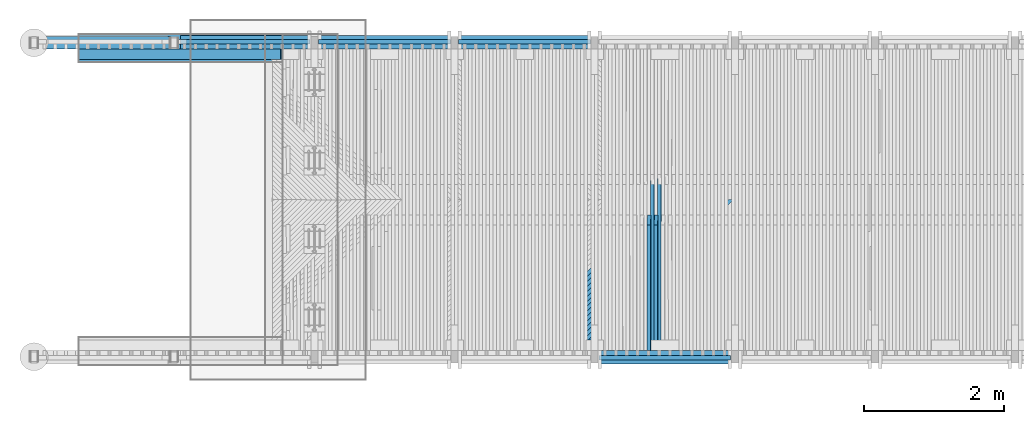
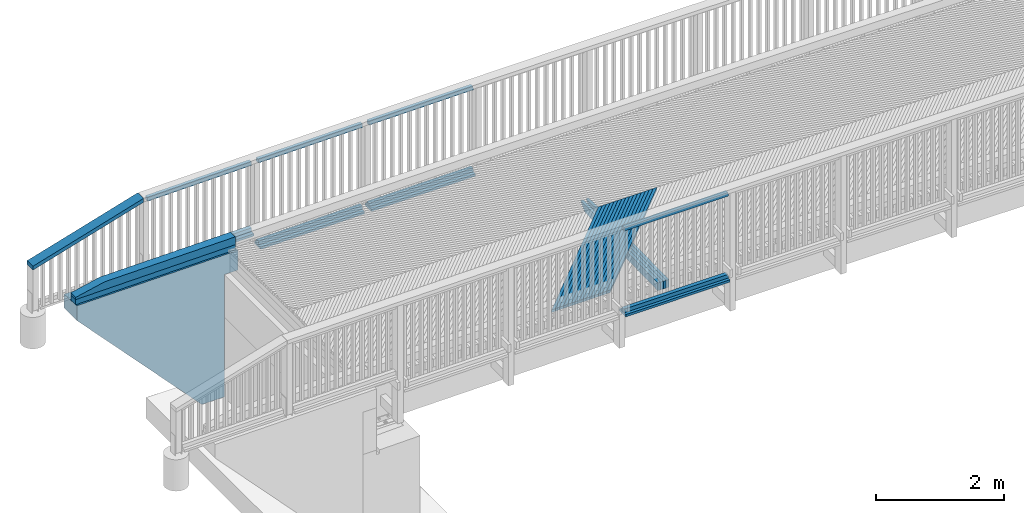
# One storey, part 21 of 52: 35 beams.
"""IFC2X3 building model written with IfcOpenShell, lengths in millimetres."""

import ifcopenshell
import ifcopenshell.guid

model = None  # the IFC model being written
_history = None  # IfcOwnerHistory: only IFC2X3 demands one
_inside = {}  # id of a spatial element -> (the spatial element, [elements in it])
_under = {}  # id of a project, library or spatial element -> (it, [spatial elements below it])
_declared = {}  # id of a project -> (the project, [libraries it declares])
_typed = {}  # id of a type object -> (the type object, [elements of that type])
_made_of = {}  # id of a material, layer set ... -> (it, [elements and type objects made of it])


def new_model(schema):
    """Start an empty IFC model of exactly this schema.

    Asked for "IFC4X3", IfcOpenShell would pick the latest addendum, in which some entities
    have other attributes; the version numbers below select the first issue.
    IFC2X3 requires an IfcOwnerHistory on every rooted entity: one is made here for all.
    """
    global model, _history
    if schema == "IFC4X3":
        model = ifcopenshell.file(schema_version=(4, 3, 0, 0))
    else:
        model = ifcopenshell.file(schema=schema)
    _inside.clear()
    _under.clear()
    _declared.clear()
    _typed.clear()
    _made_of.clear()
    _history = None
    if model.schema == "IFC2X3":
        org = make("IfcOrganization", Name="unknown")
        user = make(
            "IfcPersonAndOrganization",
            ThePerson=make("IfcPerson", FamilyName="unknown"),
            TheOrganization=org,
        )
        app = make(
            "IfcApplication",
            ApplicationDeveloper=org,
            Version="unknown",
            ApplicationFullName="unknown",
            ApplicationIdentifier="unknown",
        )
        _history = make(
            "IfcOwnerHistory",
            OwningUser=user,
            OwningApplication=app,
            ChangeAction="ADDED",
            CreationDate=0,
        )
    return model


def make(cls, **values):
    """One entity of the class cls with the attributes given. An attribute that is None is left unset."""
    return model.create_entity(
        cls, **{name: value for name, value in values.items() if value is not None}
    )


def rooted(cls, **values):
    """An entity with a GlobalId (a new one), such as an element, a storey or a relation."""
    return make(cls, GlobalId=ifcopenshell.guid.new(), OwnerHistory=_history, **values)


def si_unit(unit_type, name, prefix=None):
    """IfcSIUnit, for example si_unit("LENGTHUNIT", "METRE", prefix="MILLI")."""
    return make("IfcSIUnit", UnitType=unit_type, Prefix=prefix, Name=name)


def assignment(units):
    """IfcUnitAssignment: the units of a project."""
    return None if units is None else make("IfcUnitAssignment", Units=units)


def point(xyz):
    """IfcCartesianPoint."""
    return None if xyz is None else make("IfcCartesianPoint", Coordinates=xyz)


def direction(xyz):
    """IfcDirection."""
    return None if xyz is None else make("IfcDirection", DirectionRatios=xyz)


def frame(location, z_axis=None, x_axis=None):
    """IfcAxis2Placement3D, a coordinate frame: its origin and axes. An axis left out is left unset."""
    return make(
        "IfcAxis2Placement3D",
        Location=point(location),
        Axis=direction(z_axis),
        RefDirection=direction(x_axis),
    )


def origin_with_axes():
    """The frame at (0, 0, 0) with the z axis (0, 0, 1) and the x axis (1, 0, 0) written out."""
    return frame((0.0, 0.0, 0.0), z_axis=(0.0, 0.0, 1.0), x_axis=(1.0, 0.0, 0.0))


def place(relative_to, where):
    """IfcLocalPlacement: puts the frame where relative to a parent placement (None: the world)."""
    return make(
        "IfcLocalPlacement", PlacementRelTo=relative_to, RelativePlacement=where
    )


def context(
    kind, dimensions, precision=None, world=None, true_north=None, identifier=None
):
    """IfcGeometricRepresentationContext, for example the 3D "Model" context."""
    return make(
        "IfcGeometricRepresentationContext",
        ContextIdentifier=identifier,
        ContextType=kind,
        CoordinateSpaceDimension=dimensions,
        Precision=precision,
        WorldCoordinateSystem=world,
        TrueNorth=true_north,
    )


def subcontext(parent, identifier, kind, view, scale=None):
    """IfcGeometricRepresentationSubContext, for example "Body" below "Model"."""
    return make(
        "IfcGeometricRepresentationSubContext",
        ContextIdentifier=identifier,
        ContextType=kind,
        ParentContext=parent,
        TargetScale=scale,
        TargetView=view,
    )


def project(units=None, contexts=None):
    """IfcProject with its units and contexts."""
    return rooted(
        "IfcProject",
        Name="project",
        RepresentationContexts=contexts,
        UnitsInContext=assignment(units),
    )


def spatial(cls, under=None, at=None, **own):
    """A site, building, storey or space (cls), placed at a placement, below another one or the project."""
    s = rooted(cls, ObjectPlacement=at, **own)
    if under is not None:
        _under.setdefault(under.id(), (under, []))[1].append(s)
    return s


def faces_of(points, faces, orient=None, outer=None):
    """IfcFace entities. A face is a list of loops; a loop is a list of indices into points, from 0.

    orient and outer hold one flag for each loop. By default every Orientation is true, the
    first loop of a face is its IfcFaceOuterBound and the others are IfcFaceBound.
    """
    made = []
    for i, loops in enumerate(faces):
        bounds = []
        for j, loop in enumerate(loops):
            is_outer = j == 0 if outer is None else outer[i][j]
            bounds.append(
                make(
                    "IfcFaceOuterBound" if is_outer else "IfcFaceBound",
                    Bound=make("IfcPolyLoop", Polygon=[points[k] for k in loop]),
                    Orientation=True if orient is None else orient[i][j],
                )
            )
        made.append(make("IfcFace", Bounds=bounds))
    return made


def faceted_brep(points, faces, orient=None, outer=None, voids=None):
    """IfcFacetedBrep: a solid bounded by flat faces; with voids (closed shells), ...WithVoids."""
    shared = [point(p) for p in points]
    hull = make("IfcClosedShell", CfsFaces=faces_of(shared, faces, orient, outer))
    if voids is None:
        return make("IfcFacetedBrep", Outer=hull)
    return make(
        "IfcFacetedBrepWithVoids",
        Outer=hull,
        Voids=[
            make(cls, CfsFaces=faces_of(shared, fs, o, b)) for cls, fs, o, b in voids
        ],
    )


def shape(context_of_items, identifier, shape_type, items):
    """IfcShapeRepresentation: the items that make up one representation, for example the "Body"."""
    return make(
        "IfcShapeRepresentation",
        ContextOfItems=context_of_items,
        RepresentationIdentifier=identifier,
        RepresentationType=shape_type,
        Items=items,
    )


def material(Name=None, Category=None):
    """IfcMaterial."""
    return make("IfcMaterial", Name=Name, Category=Category)


def made_of(thing, what):
    """Note that an element or type object is made of a material, layer set ...; save() writes the relation."""
    if what is not None:
        _made_of.setdefault(what.id(), (what, []))[1].append(thing)
    return thing


def type_object(cls, material=None, **own):
    """A type object (cls), such as IfcWallType, which elements share."""
    return made_of(rooted(cls, **own), material)


def element(
    cls,
    number,
    at=None,
    inside=None,
    cuts=None,
    type_object=None,
    material=None,
    context=None,
    identifier="Body",
    shape_type=None,
    held_by="IfcProductDefinitionShape",
    body=None,
    shapes=None,
    **own,
):
    """One element of the class cls, such as IfcWall. Its Tag is "e" and its number.

    at: its placement. inside: the storey or other place that contains it. cuts: it is an
    opening in that element (IfcRelVoidsElement). A single representation is given by context,
    identifier, shape_type and body (its items); several are given by shapes. held_by: the class
    of the entity that holds the representations. save() writes the other relations.
    """
    e = rooted(cls, Tag="e%d" % number, ObjectPlacement=at, **own)
    if body is not None:
        shapes = [shape(context, identifier, shape_type, body)]
    if shapes is not None:
        e.Representation = make(held_by, Representations=shapes)
    if inside is not None:
        _inside.setdefault(inside.id(), (inside, []))[1].append(e)
    if cuts is not None:
        rooted(
            "IfcRelVoidsElement", RelatingBuildingElement=cuts, RelatedOpeningElement=e
        )
    if type_object is not None:
        _typed.setdefault(type_object.id(), (type_object, []))[1].append(e)
    return made_of(e, material)


def aggregate(whole, parts):
    """IfcRelAggregates: a whole, such as a stair, and the parts it consists of."""
    return rooted("IfcRelAggregates", RelatingObject=whole, RelatedObjects=parts)


def save(model, path):
    """Write the relations noted so far, then the file.

    IfcRelAggregates (storeys below a building ...), IfcRelContainedInSpatialStructure (elements
    in a storey), IfcRelDefinesByType, IfcRelAssociatesMaterial and IfcRelDeclares: one each for
    every whole, place, type object, material and project.
    """
    for whole, parts in _under.values():
        aggregate(whole, parts)
    for where, things in _inside.values():
        rooted(
            "IfcRelContainedInSpatialStructure",
            RelatedElements=things,
            RelatingStructure=where,
        )
    for kind, things in _typed.values():
        rooted("IfcRelDefinesByType", RelatedObjects=things, RelatingType=kind)
    for what, things in _made_of.values():
        rooted("IfcRelAssociatesMaterial", RelatedObjects=things, RelatingMaterial=what)
    for by, libraries in _declared.values():
        rooted("IfcRelDeclares", RelatingContext=by, RelatedDefinitions=libraries)
    model.write(path)


model = new_model("IFC2X3")

# Units and contexts
model_context = context("Model", 3, precision=1e-05, world=origin_with_axes())
body_context = subcontext(model_context, "Body", "Model", "MODEL_VIEW")
ifc_project = project(units=[si_unit("LENGTHUNIT", "METRE", prefix="MILLI"), si_unit("AREAUNIT", "SQUARE_METRE"), si_unit("VOLUMEUNIT", "CUBIC_METRE"), si_unit("MASSUNIT", "GRAM", prefix="KILO"), si_unit("TIMEUNIT", "SECOND"), si_unit("PLANEANGLEUNIT", "RADIAN"), si_unit("SOLIDANGLEUNIT", "STERADIAN"), si_unit("THERMODYNAMICTEMPERATUREUNIT", "DEGREE_CELSIUS"), si_unit("LUMINOUSINTENSITYUNIT", "LUMEN")], contexts=[model_context])

# Site, building, storey
site_placement = place(None, origin_with_axes())
site = spatial("IfcSite", under=ifc_project, at=site_placement, Name="Undefined", CompositionType="ELEMENT")
building_placement = place(site_placement, origin_with_axes())
building = spatial("IfcBuilding", under=site, at=building_placement, Name="Undefined", CompositionType="ELEMENT")
storey_placement = place(building_placement, origin_with_axes())
storey = spatial("IfcBuildingStorey", under=building, at=storey_placement, Name="Undefined", CompositionType="ELEMENT", Elevation=0.0)

# Beams
ifc_material_1 = material(Name="TIMBER/Timber_Undefined")
beam_type_1 = type_object("IfcBeamType", Name="150*100", PredefinedType="NOTDEFINED")
beam_1_placement = place(storey_placement, frame((-3364.03058800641, 4439.99999999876, 3118.67572907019), z_axis=(0.0, -1.0, 0.0), x_axis=(0.999904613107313, 0.0, 0.0138117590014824)))
element("IfcBeam", 1, at=beam_1_placement, inside=storey, type_object=beam_type_1, material=ifc_material_1, Name="TÖRMÄYSJOHDE", ObjectType="150*100", context=body_context, shape_type="Brep", body=[
    faceted_brep([(-3.63797880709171e-12, 50.0, -75.0), (-3.63797880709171e-12, 50.0, 75.0), (2885.27521749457, 50.0, 75.0), (2885.27521749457, 50.0, -75.0), (0.0, -49.9999999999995, 75.0), (2885.27521749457, -49.9999999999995, 75.0), (0.0, -49.9999999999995, -75.0), (2885.27521749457, -49.9999999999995, -75.0)], [[[0, 1, 2, 3]], [[1, 4, 5, 2]], [[4, 6, 7, 5]], [[6, 0, 3, 7]], [[5, 7, 3, 2]], [[6, 4, 1, 0]]]),
])
beam_type_2 = type_object("IfcBeamType", Name="150*150", PredefinedType="NOTDEFINED")
beam_2_placement = place(storey_placement, frame((-3366.03588197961, 4439.99999999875, 3243.66334439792), z_axis=(0.0, -1.0, 0.0), x_axis=(0.999904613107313, 0.0, 0.0138117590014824)))
element("IfcBeam", 2, at=beam_2_placement, inside=storey, type_object=beam_type_2, material=ifc_material_1, Name="TÖRMÄYSJOHDE", ObjectType="150*150", context=body_context, shape_type="Brep", body=[
    faceted_brep([(0.0, -75.0000000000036, 75.0000000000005), (0.0, -75.0, -74.9999999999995), (2885.27521749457, -74.9999999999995, -75.0), (2885.27521749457, -74.9999999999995, 75.0), (2885.27521749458, 75.0, -75.0), (2885.27521749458, 75.0, 75.0), (529.511118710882, 75.0, -75.0), (529.511118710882, 75.0, 75.0), (4.54747350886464e-13, -33.1222400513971, 75.0), (4.54747350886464e-13, -33.1222400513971, -75.0)], [[[0, 1, 2, 3]], [[3, 2, 4, 5]], [[5, 4, 6, 7]], [[0, 3, 5, 7, 8]], [[1, 0, 8, 9]], [[4, 2, 1, 9, 6]], [[8, 7, 6, 9]]]),
])
ifc_material_2 = material(Name="CONCRETE/Concrete_Undefined")
beam_type_3 = type_object("IfcBeamType", Name="2800*400", PredefinedType="NOTDEFINED")
beam_3_placement = place(storey_placement, frame((-430.340033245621, 4530.0, 1712.66804762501), z_axis=(-0.0140428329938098, 0.0, 0.999901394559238), x_axis=(-0.999901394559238, 0.0, -0.0140428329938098)))
element("IfcBeam", 3, at=beam_3_placement, inside=storey, type_object=beam_type_3, material=ifc_material_2, Name="SIIPIMUURI", ObjectType="2800*400", context=body_context, shape_type="Brep", body=[
    faceted_brep([(5.63100911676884e-07, 200.0, 1400.0), (0.280884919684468, -200.000000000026, 1380.0), (2915.56834818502, -200.0, 1380.0), (2915.28746382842, 200.0, 1400.0), (270.457242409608, 199.999999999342, -54.8754727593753), (270.457242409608, -200.0, -54.8754727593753), (255.29098277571, -200.0, 1025.01803336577), (255.29098277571, 199.999999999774, 1025.01803336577), (288.066954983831, 200.0, -1308.75182153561), (288.066954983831, -200.0, -1308.75182153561), (697.173583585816, 200.0, -1303.00623892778), (697.173583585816, -200.0, -1303.00623892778), (2919.22031514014, 200.0, 1119.96651154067), (2919.22031514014, -200.0, 1119.96651154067), (5.31563413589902, -200.0, 1021.50732511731), (5.31563413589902, 199.999999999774, 1021.50732511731)], [[[0, 1, 2, 3]], [[4, 5, 6, 7]], [[8, 9, 5, 4]], [[10, 11, 9, 8]], [[12, 13, 11, 10]], [[13, 12, 3, 2]], [[14, 6, 5, 9, 11, 13, 2, 1]], [[7, 6, 14, 15]], [[3, 12, 10, 8, 4, 7, 15, 0]], [[15, 14, 1, 0]]]),
])
beam_type_4 = type_object("IfcBeamType", Name="70*70", PredefinedType="NOTDEFINED")
for number, where, z_axis, x_axis, name in (
    (4, (2060.3049307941, 4619.99000024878, 2938.55031617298), (0.0, 1.0, 0.0), (0.999961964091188, 0.0, 0.00872183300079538), "BEAM"),
    (5, (2060.3049307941, 4619.99000024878, 4498.55031617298), (0.0, 1.0, 0.0), (0.999961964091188, 0.0, 0.00872183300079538), "BEAM"),
):
    element("IfcBeam", number, at=place(storey_placement, frame(where, z_axis=z_axis, x_axis=x_axis)), inside=storey, type_object=beam_type_4, material=ifc_material_1, Name=name, ObjectType="70*70", context=body_context, shape_type="Brep", body=[
        faceted_brep([(-3.63797880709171e-12, 35.0000000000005, -35.0), (-3.63797880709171e-12, 35.0000000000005, 35.0), (1880.07227097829, 34.9999999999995, 35.0), (1880.07227097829, 34.9999999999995, -35.0), (-3.63797880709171e-12, -34.9999999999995, 35.0), (1880.07227097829, -35.0000000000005, 35.0), (-3.63797880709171e-12, -34.9999999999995, -35.0), (1880.07227097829, -35.0000000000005, -35.0)], [[[0, 1, 2, 3]], [[1, 4, 5, 2]], [[4, 6, 7, 5]], [[6, 0, 3, 7]], [[5, 7, 3, 2]], [[6, 4, 1, 0]]]),
    ])
for number, where, z_axis, x_axis, name in (
    (6, (60.4266460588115, 4619.99005554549, 2915.38471475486), (0.0, 1.0, 0.0), (0.999925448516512, 0.0, 0.0122105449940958), "BEAM"),
    (7, (60.4266460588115, 4619.99005554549, 4475.38471475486), (0.0, 1.0, 0.0), (0.999925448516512, 0.0, 0.0122105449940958), "BEAM"),
):
    element("IfcBeam", number, at=place(storey_placement, frame(where, z_axis=z_axis, x_axis=x_axis)), inside=storey, type_object=beam_type_4, material=ifc_material_1, Name=name, ObjectType="70*70", context=body_context, shape_type="Brep", body=[
        faceted_brep([(-3.63797880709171e-12, 35.0000000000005, -35.0), (-3.63797880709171e-12, 35.0000000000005, 35.0), (1880.14172547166, 35.0, 35.0), (1880.14172547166, 35.0, -35.0), (-3.63797880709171e-12, -34.9999999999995, 35.0), (1880.14172547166, -35.0, 35.0), (-3.63797880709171e-12, -34.9999999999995, -35.0), (1880.14172547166, -35.0, -35.0)], [[[0, 1, 2, 3]], [[1, 4, 5, 2]], [[4, 6, 7, 5]], [[6, 0, 3, 7]], [[5, 7, 3, 2]], [[6, 4, 1, 0]]]),
    ])
beam_4_placement = place(storey_placement, frame((-1909.4703719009, 4619.99002995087, 3186.87116342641), z_axis=(0.0, 1.0, 0.0), x_axis=(0.999883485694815, 0.0, 0.0152648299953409)))
element("IfcBeam", 8, at=beam_4_placement, inside=storey, type_object=beam_type_4, material=ifc_material_1, Name="BEAM", ObjectType="70*70", context=body_context, shape_type="Brep", body=[
    faceted_brep([(-3.63797880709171e-12, 35.0000000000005, -35.0), (-3.63797880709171e-12, 35.0000000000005, 35.0), (1850.22135781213, 34.9999999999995, 35.0), (1850.22135781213, 34.9999999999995, -35.0), (-3.63797880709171e-12, -34.9999999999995, 35.0), (1850.22135781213, -35.0, 35.0), (-3.63797880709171e-12, -34.9999999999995, -35.0), (1850.22135781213, -35.0, -35.0)], [[[0, 1, 2, 3]], [[1, 4, 5, 2]], [[4, 6, 7, 5]], [[6, 0, 3, 7]], [[5, 7, 3, 2]], [[6, 4, 1, 0]]]),
])
beam_5_placement = place(storey_placement, frame((-1939.46687647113, 4619.99002995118, 4446.41321852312), z_axis=(0.0, 1.0, 0.0), x_axis=(0.999883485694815, 0.0, 0.0152648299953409)))
element("IfcBeam", 9, at=beam_5_placement, inside=storey, type_object=beam_type_4, material=ifc_material_1, Name="BEAM", ObjectType="70*70", context=body_context, shape_type="Brep", body=[
    faceted_brep([(-3.63797880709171e-12, 35.0000000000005, -35.0), (-3.63797880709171e-12, 35.0000000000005, 35.0), (1880.22135781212, 35.0000000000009, 35.0), (1880.22135781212, 35.0000000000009, -35.0), (-3.63797880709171e-12, -34.9999999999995, 35.0), (1880.22135781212, -35.0, 35.0), (-3.63797880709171e-12, -34.9999999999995, -35.0), (1880.22135781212, -35.0, -35.0)], [[[0, 1, 2, 3]], [[1, 4, 5, 2]], [[4, 6, 7, 5]], [[6, 0, 3, 7]], [[5, 7, 3, 2]], [[6, 4, 1, 0]]]),
])
for number, where, z_axis, x_axis, name in (
    (10, (4060.18309001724, 110.009931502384, 2952.37669081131), (0.0, -1.0, 0.0), (0.999986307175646, 0.0, 0.00523311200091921), "BEAM"),
    (11, (4060.18309001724, 110.009931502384, 4512.3766908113), (0.0, -1.0, 0.0), (0.999986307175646, 0.0, 0.00523311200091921), "BEAM"),
):
    element("IfcBeam", number, at=place(storey_placement, frame(where, z_axis=z_axis, x_axis=x_axis)), inside=storey, type_object=beam_type_4, material=ifc_material_1, Name=name, ObjectType="70*70", context=body_context, shape_type="Brep", body=[
        faceted_brep([(-3.63797880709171e-12, 35.0000000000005, -35.0), (-3.63797880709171e-12, 35.0000000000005, 35.0), (1880.02601672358, 34.9999999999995, 35.0), (1880.02601672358, 34.9999999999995, -35.0), (-3.63797880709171e-12, -34.9999999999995, 35.0), (1880.02601672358, -35.0000000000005, 35.0), (-3.63797880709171e-12, -34.9999999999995, -35.0), (1880.02601672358, -35.0000000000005, -35.0)], [[[0, 1, 2, 3]], [[1, 4, 5, 2]], [[4, 6, 7, 5]], [[6, 0, 3, 7]], [[5, 7, 3, 2]], [[6, 4, 1, 0]]]),
    ])
beam_type_5 = type_object("IfcBeamType", Name="180*70", PredefinedType="NOTDEFINED")
beam_6_placement = place(storey_placement, frame((-2039.93420243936, 4605.00996402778, 4517.05500293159), z_axis=(0.0, -1.0, 0.0), x_axis=(-0.958243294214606, 0.0, -0.285954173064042)))
element("IfcBeam", 12, at=beam_6_placement, inside=storey, type_object=beam_type_5, material=ifc_material_1, Name="YLÄJOHDE", ObjectType="180*70", context=body_context, shape_type="Brep", body=[
    faceted_brep([(41.6879268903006, 35.0699417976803, -90.0), (41.8028913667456, -34.9299637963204, -90.0), (0.0598773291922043, -34.9999487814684, -90.0), (20.9594530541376, 35.0351891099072, -90.0), (41.8028913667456, -34.9299637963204, 90.0), (41.6879268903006, 35.0699417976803, 90.0), (20.9594530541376, 35.0351891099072, 90.0), (0.0598773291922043, -34.9999487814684, 90.0), (83.4357358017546, 35.1370779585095, 90.0), (83.4357358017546, 35.1370779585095, -90.0), (83.5459100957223, -34.8628353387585, -90.0), (83.5459100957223, -34.8628353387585, 90.0), (125.288933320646, -34.7985634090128, 90.0), (125.183549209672, 35.2013572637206, 90.0), (125.183549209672, 35.2013572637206, -90.0), (125.288933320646, -34.7985634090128, -90.0), (167.031960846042, -34.7371480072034, -90.0), (167.031960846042, -34.7371480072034, 90.0), (166.931366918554, 35.2627797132, 90.0), (166.931366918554, 35.2627797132, -90.0), (208.679188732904, 35.3213453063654, -90.0), (208.774992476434, -34.6785891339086, -90.0), (208.774992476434, -34.6785891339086, 90.0), (208.679188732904, 35.3213453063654, 90.0), (250.427014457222, 35.3770540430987, 90.0), (250.427014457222, 35.3770540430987, -90.0), (250.518028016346, -34.6228867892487, -90.0), (250.518028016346, -34.6228867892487, 90.0), (292.261067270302, -34.57004097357, 90.0), (292.17484389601, 35.4299059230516, 90.0), (292.17484389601, 35.4299059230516, -90.0), (292.261067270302, -34.57004097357, -90.0), (334.004110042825, -34.5200516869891, -90.0), (334.004110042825, -34.5200516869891, 90.0), (333.92267685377, 35.4799009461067, 90.0), (333.92267685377, 35.4799009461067, -90.0), (375.670513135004, 35.527039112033, -90.0), (375.747156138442, -34.4729189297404, -90.0), (375.747156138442, -34.4729189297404, 90.0), (375.670513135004, 35.527039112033, 90.0), (417.418352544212, 35.5713204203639, 90.0), (417.418352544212, 35.5713204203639, -90.0), (417.490205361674, -34.428642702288, -90.0), (417.490205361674, -34.428642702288, 90.0), (459.233257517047, -34.3872230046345, 90.0), (459.166194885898, 35.6127448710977, 90.0), (459.166194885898, 35.6127448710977, -90.0), (459.233257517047, -34.3872230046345, -90.0), (500.976312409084, -34.3486598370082, -90.0), (500.976312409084, -34.3486598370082, 90.0), (500.914039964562, 35.651312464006, 90.0), (500.914039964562, 35.651312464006, -90.0), (542.661887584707, 35.6870231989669, -90.0), (542.71936984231, -34.3129531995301, -90.0), (542.71936984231, -34.3129531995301, 90.0), (542.661887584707, 35.6870231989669, 90.0), (584.409737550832, 35.7198770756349, 90.0), (584.409737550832, 35.7198770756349, -90.0), (584.462429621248, -34.2801030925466, -90.0), (584.462429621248, -34.2801030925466, 90.0), (626.205491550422, -34.2501095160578, 90.0), (626.157589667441, 35.7498740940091, 90.0), (626.157589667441, 35.7498740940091, -90.0), (626.205491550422, -34.2501095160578, -90.0), (667.948555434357, -34.222972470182, -90.0), (667.948555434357, -34.222972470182, 90.0), (667.905443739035, 35.777014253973, 90.0), (667.905443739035, 35.777014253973, -90.0), (709.653299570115, 35.801297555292, -90.0), (709.691621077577, -34.19869195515, -90.0), (709.691621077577, -34.19869195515, 90.0), (709.653299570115, 35.801297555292, 90.0), (751.401156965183, 35.8227239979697, 90.0), (751.401156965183, 35.8227239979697, -90.0), (751.434688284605, -34.1772679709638, -90.0), (751.434688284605, -34.1772679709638, 90.0), (793.177756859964, -34.1587005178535, 90.0), (793.14901572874, 35.8412935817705, 90.0), (793.14901572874, 35.8412935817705, -90.0), (793.177756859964, -34.1587005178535, -90.0), (834.920826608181, -34.1429895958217, -90.0), (834.920826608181, -34.1429895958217, 90.0), (834.896875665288, 35.8570063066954, 90.0), (834.896875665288, 35.8570063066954, -90.0), (876.644736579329, 35.8698621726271, -90.0), (876.663897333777, -34.1301352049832, -90.0), (876.663897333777, -34.1301352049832, 90.0), (876.644736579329, 35.8698621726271, 90.0), (918.392598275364, 35.8798611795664, 90.0), (918.392598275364, 35.8798611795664, -90.0), (918.406968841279, -34.1201373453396, -90.0), (918.406968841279, -34.1201373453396, 90.0), (960.150040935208, -34.1129960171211, 90.0), (960.140460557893, 35.8870033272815, 90.0), (960.140460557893, 35.8870033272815, -90.0), (960.150040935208, -34.1129960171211, -90.0), (1001.89311342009, -34.1087112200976, -90.0), (1001.89311342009, -34.1087112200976, 90.0), (1001.88832323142, 35.8912886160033, 90.0), (1001.88832323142, 35.8912886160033, -90.0), (1043.63618610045, 35.8927170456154, -90.0), (1043.63618610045, -34.1072829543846, -90.0), (1043.63618610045, -34.1072829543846, 90.0), (1043.63618610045, 35.8927170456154, 90.0), (1085.38404896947, 35.8912886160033, 90.0), (1085.38404896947, 35.8912886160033, -90.0), (1085.3792587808, -34.1087112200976, -90.0), (1085.3792587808, -34.1087112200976, 90.0), (1127.12233126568, -34.1129960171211, 90.0), (1127.131911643, 35.8870033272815, 90.0), (1127.131911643, 35.8870033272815, -90.0), (1127.12233126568, -34.1129960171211, -90.0), (1168.86540335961, -34.1201373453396, -90.0), (1168.86540335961, -34.1201373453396, 90.0), (1168.87977392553, 35.8798611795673, 90.0), (1168.87977392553, 35.8798611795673, -90.0), (1210.62763562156, 35.8698621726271, -90.0), (1210.60847486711, -34.1301352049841, -90.0), (1210.60847486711, -34.1301352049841, 90.0), (1210.62763562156, 35.8698621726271, 90.0), (1252.3754965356, 35.8570063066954, 90.0), (1252.3754965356, 35.8570063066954, -90.0), (1252.35154559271, -34.1429895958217, -90.0), (1252.35154559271, -34.1429895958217, 90.0), (1294.09461534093, -34.1587005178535, 90.0), (1294.12335647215, 35.8412935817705, 90.0), (1294.12335647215, 35.8412935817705, -90.0), (1294.09461534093, -34.1587005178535, -90.0), (1335.83768391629, -34.1772679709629, -90.0), (1335.83768391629, -34.1772679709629, 90.0), (1335.87121523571, 35.8227239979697, 90.0), (1335.87121523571, 35.8227239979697, -90.0), (1377.61907263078, 35.8012975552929, -90.0), (1377.58075112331, -34.1986919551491, -90.0), (1377.58075112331, -34.1986919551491, 90.0), (1377.61907263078, 35.8012975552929, 90.0), (1419.36692846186, 35.777014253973, 90.0), (1419.36692846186, 35.777014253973, -90.0), (1419.32381676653, -34.222972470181, -90.0), (1419.32381676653, -34.222972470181, 90.0), (1461.06688065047, -34.2501095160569, 90.0), (1461.11478253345, 35.7498740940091, 90.0), (1461.11478253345, 35.7498740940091, -90.0), (1461.06688065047, -34.2501095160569, -90.0), (1502.80994257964, -34.2801030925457, -90.0), (1502.80994257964, -34.2801030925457, 90.0), (1502.86263465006, 35.7198770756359, 90.0), (1502.86263465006, 35.7198770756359, -90.0), (1544.61048461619, 35.6870231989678, -90.0), (1544.55300235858, -34.3129531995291, -90.0), (1544.55300235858, -34.3129531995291, 90.0), (1544.61048461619, 35.6870231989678, 90.0), (1586.35833223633, 35.6513124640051, 90.0), (1586.35833223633, 35.6513124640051, -90.0), (1586.29605979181, -34.3486598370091, -90.0), (1586.29605979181, -34.3486598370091, 90.0), (1628.03911468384, -34.3872230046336, 90.0), (1628.10617731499, 35.6127448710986, 90.0), (1628.10617731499, 35.6127448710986, -90.0), (1628.03911468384, -34.3872230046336, -90.0), (1669.78216683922, -34.428642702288, -90.0), (1669.78216683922, -34.428642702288, 90.0), (1669.85401965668, 35.571320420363, 90.0), (1669.85401965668, 35.571320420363, -90.0), (1711.60185906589, 35.527039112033, -90.0), (1711.52521606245, -34.4729189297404, -90.0), (1711.52521606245, -34.4729189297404, 90.0), (1711.60185906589, 35.527039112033, 90.0), (1753.34969534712, 35.4799009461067, 90.0), (1753.34969534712, 35.4799009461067, -90.0), (1753.26826215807, -34.5200516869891, -90.0), (1753.26826215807, -34.5200516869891, 90.0), (1795.01130493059, -34.5700409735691, 90.0), (1795.09752830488, 35.4299059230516, 90.0), (1795.09752830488, 35.4299059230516, -90.0), (1795.01130493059, -34.5700409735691, -90.0), (1836.75434418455, -34.6228867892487, -90.0), (1836.75434418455, -34.6228867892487, 90.0), (1836.84535774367, 35.3770540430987, 90.0), (1836.84535774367, 35.3770540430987, -90.0), (1878.59318346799, 35.3213453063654, -90.0), (1878.49737972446, -34.6785891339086, -90.0), (1878.49737972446, -34.6785891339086, 90.0), (1878.59318346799, 35.3213453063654, 90.0), (1920.34100528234, 35.2627797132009, 90.0), (1920.34100528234, 35.2627797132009, -90.0), (1920.24041135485, -34.7371480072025, -90.0), (1920.24041135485, -34.7371480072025, 90.0), (1961.98343888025, -34.7985634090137, 90.0), (1962.08882299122, 35.2013572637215, 90.0), (1962.08882299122, 35.2013572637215, -90.0), (1961.98343888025, -34.7985634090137, -90.0), (2003.72646210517, -34.8628353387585, -90.0), (2003.72646210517, -34.8628353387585, 90.0), (2003.83663639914, 35.1370779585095, 90.0), (2003.83663639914, 35.1370779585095, -90.0), (2045.58444531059, 35.0699417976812, -90.0), (2045.46948083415, -34.9299637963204, -90.0), (2045.46948083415, -34.9299637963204, 90.0), (2045.58444531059, 35.0699417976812, 90.0), (2087.33224953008, 34.9999487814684, 90.0), (2087.33224953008, 34.9999487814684, -90.0), (2087.2124948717, -34.9999487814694, -90.0), (2087.2124948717, -34.9999487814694, 90.0), (2108.09074494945, 34.9637252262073, 90.0), (2108.09074494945, 34.9637252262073, -90.0)], [[[0, 1, 2, 3]], [[4, 5, 6, 7]], [[1, 4, 7, 2]], [[6, 3, 2, 7]], [[5, 0, 3, 6]], [[0, 5, 8, 9]], [[1, 0, 9, 10]], [[4, 1, 10, 11]], [[5, 4, 11, 8]], [[8, 11, 12, 13]], [[9, 8, 13, 14]], [[10, 9, 14, 15]], [[11, 10, 15, 12]], [[12, 15, 16, 17]], [[13, 12, 17, 18]], [[14, 13, 18, 19]], [[15, 14, 19, 16]], [[16, 19, 20, 21]], [[17, 16, 21, 22]], [[18, 17, 22, 23]], [[19, 18, 23, 20]], [[20, 23, 24, 25]], [[21, 20, 25, 26]], [[22, 21, 26, 27]], [[23, 22, 27, 24]], [[24, 27, 28, 29]], [[25, 24, 29, 30]], [[26, 25, 30, 31]], [[27, 26, 31, 28]], [[28, 31, 32, 33]], [[29, 28, 33, 34]], [[30, 29, 34, 35]], [[31, 30, 35, 32]], [[32, 35, 36, 37]], [[33, 32, 37, 38]], [[34, 33, 38, 39]], [[35, 34, 39, 36]], [[36, 39, 40, 41]], [[37, 36, 41, 42]], [[38, 37, 42, 43]], [[39, 38, 43, 40]], [[40, 43, 44, 45]], [[41, 40, 45, 46]], [[42, 41, 46, 47]], [[43, 42, 47, 44]], [[44, 47, 48, 49]], [[45, 44, 49, 50]], [[46, 45, 50, 51]], [[47, 46, 51, 48]], [[48, 51, 52, 53]], [[49, 48, 53, 54]], [[50, 49, 54, 55]], [[51, 50, 55, 52]], [[52, 55, 56, 57]], [[53, 52, 57, 58]], [[54, 53, 58, 59]], [[55, 54, 59, 56]], [[56, 59, 60, 61]], [[57, 56, 61, 62]], [[58, 57, 62, 63]], [[59, 58, 63, 60]], [[60, 63, 64, 65]], [[61, 60, 65, 66]], [[62, 61, 66, 67]], [[63, 62, 67, 64]], [[64, 67, 68, 69]], [[65, 64, 69, 70]], [[66, 65, 70, 71]], [[67, 66, 71, 68]], [[68, 71, 72, 73]], [[69, 68, 73, 74]], [[70, 69, 74, 75]], [[71, 70, 75, 72]], [[72, 75, 76, 77]], [[73, 72, 77, 78]], [[74, 73, 78, 79]], [[75, 74, 79, 76]], [[76, 79, 80, 81]], [[77, 76, 81, 82]], [[78, 77, 82, 83]], [[79, 78, 83, 80]], [[80, 83, 84, 85]], [[81, 80, 85, 86]], [[82, 81, 86, 87]], [[83, 82, 87, 84]], [[84, 87, 88, 89]], [[85, 84, 89, 90]], [[86, 85, 90, 91]], [[87, 86, 91, 88]], [[88, 91, 92, 93]], [[89, 88, 93, 94]], [[90, 89, 94, 95]], [[91, 90, 95, 92]], [[92, 95, 96, 97]], [[93, 92, 97, 98]], [[94, 93, 98, 99]], [[95, 94, 99, 96]], [[96, 99, 100, 101]], [[97, 96, 101, 102]], [[98, 97, 102, 103]], [[99, 98, 103, 100]], [[100, 103, 104, 105]], [[101, 100, 105, 106]], [[102, 101, 106, 107]], [[103, 102, 107, 104]], [[104, 107, 108, 109]], [[105, 104, 109, 110]], [[106, 105, 110, 111]], [[107, 106, 111, 108]], [[108, 111, 112, 113]], [[109, 108, 113, 114]], [[110, 109, 114, 115]], [[111, 110, 115, 112]], [[112, 115, 116, 117]], [[113, 112, 117, 118]], [[114, 113, 118, 119]], [[115, 114, 119, 116]], [[116, 119, 120, 121]], [[117, 116, 121, 122]], [[118, 117, 122, 123]], [[119, 118, 123, 120]], [[120, 123, 124, 125]], [[121, 120, 125, 126]], [[122, 121, 126, 127]], [[123, 122, 127, 124]], [[124, 127, 128, 129]], [[125, 124, 129, 130]], [[126, 125, 130, 131]], [[127, 126, 131, 128]], [[128, 131, 132, 133]], [[129, 128, 133, 134]], [[130, 129, 134, 135]], [[131, 130, 135, 132]], [[132, 135, 136, 137]], [[133, 132, 137, 138]], [[134, 133, 138, 139]], [[135, 134, 139, 136]], [[136, 139, 140, 141]], [[137, 136, 141, 142]], [[138, 137, 142, 143]], [[139, 138, 143, 140]], [[140, 143, 144, 145]], [[141, 140, 145, 146]], [[142, 141, 146, 147]], [[143, 142, 147, 144]], [[144, 147, 148, 149]], [[145, 144, 149, 150]], [[146, 145, 150, 151]], [[147, 146, 151, 148]], [[148, 151, 152, 153]], [[149, 148, 153, 154]], [[150, 149, 154, 155]], [[151, 150, 155, 152]], [[152, 155, 156, 157]], [[153, 152, 157, 158]], [[154, 153, 158, 159]], [[155, 154, 159, 156]], [[156, 159, 160, 161]], [[157, 156, 161, 162]], [[158, 157, 162, 163]], [[159, 158, 163, 160]], [[160, 163, 164, 165]], [[161, 160, 165, 166]], [[162, 161, 166, 167]], [[163, 162, 167, 164]], [[164, 167, 168, 169]], [[165, 164, 169, 170]], [[166, 165, 170, 171]], [[167, 166, 171, 168]], [[168, 171, 172, 173]], [[169, 168, 173, 174]], [[170, 169, 174, 175]], [[171, 170, 175, 172]], [[172, 175, 176, 177]], [[173, 172, 177, 178]], [[174, 173, 178, 179]], [[175, 174, 179, 176]], [[176, 179, 180, 181]], [[177, 176, 181, 182]], [[178, 177, 182, 183]], [[179, 178, 183, 180]], [[180, 183, 184, 185]], [[181, 180, 185, 186]], [[182, 181, 186, 187]], [[183, 182, 187, 184]], [[184, 187, 188, 189]], [[185, 184, 189, 190]], [[186, 185, 190, 191]], [[187, 186, 191, 188]], [[188, 191, 192, 193]], [[189, 188, 193, 194]], [[190, 189, 194, 195]], [[191, 190, 195, 192]], [[192, 195, 196, 197]], [[193, 192, 197, 198]], [[194, 193, 198, 199]], [[195, 194, 199, 196]], [[196, 199, 200, 201]], [[197, 196, 201, 202]], [[198, 197, 202, 203]], [[199, 198, 203, 200]], [[200, 203, 204]], [[201, 200, 204, 205]], [[201, 205, 202]], [[204, 203, 202, 205]]]),
])
beam_type_6 = type_object("IfcBeamType", Name="50*50", PredefinedType="NOTDEFINED")
for number, where, z_axis, x_axis, name in (
    (13, (5943.35931839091, 2364.50010032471, 3232.6095926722), (0.70715430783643, -0.706981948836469, -0.0104550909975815), (-0.707040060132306, -0.706948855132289, -0.0178232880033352), "BEAM"),
    (14, (5872.63551183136, 2364.50010032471, 3232.36386467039), (0.707155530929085, -0.706981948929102, -0.0103720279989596), (-0.707037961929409, -0.706948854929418, -0.0179063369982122), "BEAM"),
    (15, (5801.91173462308, 2364.50010032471, 3232.10982940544), (0.707156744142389, -0.706981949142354, -0.0102889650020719), (-0.707035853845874, -0.706948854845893, -0.0179893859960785), "BEAM"),
    (16, (5731.18798774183, 2364.50010032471, 3231.84748688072), (0.707157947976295, -0.706981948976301, -0.010205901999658), (-0.707033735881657, -0.706948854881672, -0.0180724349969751), "BEAM"),
    (17, (5660.46427216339, 2364.50010032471, 3231.57683709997), (0.707159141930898, -0.706981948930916, -0.0101228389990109), (-0.707031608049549, -0.706948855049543, -0.0181554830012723), "BEAM"),
    (18, (5589.74058886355, 2364.50010032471, 3231.29788006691), (0.707160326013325, -0.706981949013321, -0.0100397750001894), (-0.707029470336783, -0.706948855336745, -0.0182385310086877), "BEAM"),
    (19, (5519.01693881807, 2364.50010032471, 3231.01061578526), (0.707161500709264, -0.706981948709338, -0.00995671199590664), (-0.707027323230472, -0.706948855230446, -0.0183215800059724), "BEAM"),
    (20, (5448.29332300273, 2364.50010032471, 3230.71504425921), (0.707162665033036, -0.706981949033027, -0.00987364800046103), (-0.707025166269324, -0.706948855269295, -0.0184046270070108), "BEAM"),
    (21, (5377.5697423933, 2364.50010032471, 3230.41116549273), (0.707163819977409, -0.706981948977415, -0.00979058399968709), (-0.70702299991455, -0.70694885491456, -0.0184876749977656), "BEAM"),
    (22, (5306.84619796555, 2364.50010032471, 3230.09897948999), (0.707164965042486, -0.706981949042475, -0.00970752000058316), (-0.707020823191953, -0.706948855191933, -0.0185707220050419), "BEAM"),
    (23, (5236.12269069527, 2364.50010032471, 3229.77848625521), (0.707166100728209, -0.70698194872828, -0.00962445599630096), (-0.707018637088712, -0.706948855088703, -0.0186537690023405), "BEAM"),
    (24, (5165.39922155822, 2364.50010032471, 3229.44968579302), (0.707167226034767, -0.706981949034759, -0.00954139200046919), (-0.707016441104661, -0.706948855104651, -0.0187368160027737), "BEAM"),
    (25, (5094.67579153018, 2364.50010032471, 3229.11257810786), (0.707168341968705, -0.706981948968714, -0.00945832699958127), (-0.70701423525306, -0.706948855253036, -0.0188198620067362), "BEAM"),
    (26, (5023.95240158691, 2364.50010032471, 3228.76716320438), (0.707169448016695, -0.706981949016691, -0.00937526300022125), (-0.70701202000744, -0.706948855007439, -0.0189029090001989), "BEAM"),
    (27, (4953.22905270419, 2364.50010032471, 3228.41344108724), (0.707170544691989, -0.706981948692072, -0.00929219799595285), (-0.70700979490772, -0.706948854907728, -0.018985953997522), "BEAM"),
):
    element("IfcBeam", number, at=place(storey_placement, frame(where, z_axis=z_axis, x_axis=x_axis)), inside=storey, type_object=beam_type_6, material=ifc_material_1, Name=name, ObjectType="50*50", context=body_context, shape_type="Brep", body=[
        faceted_brep([(24.894245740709, 25.0, -25.0), (-25.0086637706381, 24.9999999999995, 24.9999999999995), (2804.3406783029, 25.0000000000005, 25.0000000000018), (2854.34301907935, 25.0, -24.9999999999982), (-26.4222658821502, -25.0, 24.9999999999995), (2802.92643296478, -25.0, 25.0000000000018), (23.4806436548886, -25.0, -25.0), (2852.92877373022, -25.0, -24.9999999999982)], [[[0, 1, 2, 3]], [[1, 4, 5, 2]], [[4, 6, 7, 5]], [[6, 0, 3, 7]], [[5, 7, 3, 2]], [[6, 4, 1, 0]]]),
    ])
beam_type_7 = type_object("IfcBeamType", Name="195*45", PredefinedType="NOTDEFINED")
for number, where, z_axis, x_axis, name in (
    (28, (2059.95011570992, 4612.49000024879, 2881.05428246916), (0.0, 1.0, 0.0), (0.999961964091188, 0.0, 0.00872183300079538), "BEAM"),
    (29, (60.2724309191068, 4612.4900555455, 2857.88779307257), (0.0, 1.0, 0.0), (0.999925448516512, 0.0, 0.0122105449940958), "BEAM"),
):
    element("IfcBeam", number, at=place(storey_placement, frame(where, z_axis=z_axis, x_axis=x_axis)), inside=storey, type_object=beam_type_7, material=ifc_material_1, Name=name, ObjectType="195*45", context=body_context, shape_type="Brep", body=[
        faceted_brep([(3.63797880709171e-12, 22.4999999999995, -97.5), (3.63797880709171e-12, 22.4999999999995, 97.5), (1880.22135781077, 22.4999999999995, 97.5), (1880.22135781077, 22.4999999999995, -97.5), (1.81898940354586e-12, -22.5000000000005, 97.5), (1880.22135781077, -22.5000000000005, 97.5), (1.81898940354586e-12, -22.5000000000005, -97.5), (1880.22135781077, -22.5000000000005, -97.5)], [[[0, 1, 2, 3]], [[1, 4, 5, 2]], [[4, 6, 7, 5]], [[6, 0, 3, 7]], [[5, 7, 3, 2]], [[6, 4, 1, 0]]]),
    ])
beam_7_placement = place(storey_placement, frame((-1909.66118227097, 4612.49002995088, 3129.36970699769), z_axis=(0.0, 1.0, 0.0), x_axis=(0.999883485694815, 0.0, 0.0152648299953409)))
element("IfcBeam", 30, at=beam_7_placement, inside=storey, type_object=beam_type_7, material=ifc_material_1, Name="BEAM", ObjectType="195*45", context=body_context, shape_type="Brep", body=[
    faceted_brep([(3.63797880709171e-12, 22.4999999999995, -97.5), (3.63797880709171e-12, 22.4999999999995, 97.5), (1850.22135781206, 22.5, 97.5), (1850.22135781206, 22.5, -97.5), (1.81898940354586e-12, -22.5000000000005, 97.5), (1850.22135781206, -22.5, 97.5), (1.81898940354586e-12, -22.5000000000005, -97.5), (1850.22135781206, -22.5, -97.5)], [[[0, 1, 2, 3]], [[1, 4, 5, 2]], [[4, 6, 7, 5]], [[6, 0, 3, 7]], [[5, 7, 3, 2]], [[6, 4, 1, 0]]]),
])
beam_8_placement = place(storey_placement, frame((4059.62768489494, 117.50993150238, 2894.88224489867), z_axis=(0.0, -1.0, 0.0), x_axis=(0.999986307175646, 0.0, 0.00523311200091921)))
element("IfcBeam", 31, at=beam_8_placement, inside=storey, type_object=beam_type_7, material=ifc_material_1, Name="BEAM", ObjectType="195*45", context=body_context, shape_type="Brep", body=[
    faceted_brep([(3.63797880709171e-12, 22.4999999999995, -97.5), (3.63797880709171e-12, 22.4999999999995, 97.5), (1880.22135781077, 22.4999999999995, 97.5), (1880.22135781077, 22.4999999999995, -97.5), (1.81898940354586e-12, -22.5000000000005, 97.5), (1880.22135781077, -22.5000000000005, 97.5), (1.81898940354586e-12, -22.5000000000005, -97.5), (1880.22135781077, -22.5000000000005, -97.5)], [[[0, 1, 2, 3]], [[1, 4, 5, 2]], [[4, 6, 7, 5]], [[6, 0, 3, 7]], [[5, 7, 3, 2]], [[6, 4, 1, 0]]]),
])
beam_type_8 = type_object("IfcBeamType", Name="150*50", PredefinedType="NOTDEFINED")
beam_9_placement = place(storey_placement, frame((4875.76404356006, 216.50460761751, 3085.04044053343), z_axis=(-0.00527138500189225, -0.0199960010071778, 0.999786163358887), x_axis=(-0.000105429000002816, 0.999800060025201, 0.019995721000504)))
element("IfcBeam", 32, at=beam_9_placement, inside=storey, type_object=beam_type_8, material=ifc_material_1, Name="BEAM", ObjectType="150*50", context=body_context, shape_type="Brep", body=[
    faceted_brep([(-1.67788130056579e-07, -24.9999999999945, -74.9999999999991), (1.67786311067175e-07, -24.9999999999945, 75.0000000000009), (1.67786311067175e-07, 25.0000000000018, 75.0), (-1.67787220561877e-07, 25.0000000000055, -75.0), (1928.42646353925, -25.0, -75.0), (1789.96936433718, -25.0000000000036, 74.9999999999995), (1789.96936408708, 24.9999999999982, 75.0000000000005), (1928.42646328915, 24.9999999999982, -74.9999999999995)], [[[0, 1, 2, 3]], [[1, 0, 4, 5]], [[2, 1, 5, 6]], [[3, 2, 6, 7]], [[0, 3, 7, 4]], [[7, 6, 5, 4]]]),
])
beam_10_placement = place(storey_placement, frame((4925.78342438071, 216.504607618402, 3085.29585887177), z_axis=(-0.00510526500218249, -0.0199960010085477, 0.999787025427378), x_axis=(-0.000102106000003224, 0.999800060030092, 0.0199957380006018)))
element("IfcBeam", 33, at=beam_10_placement, inside=storey, type_object=beam_type_8, material=ifc_material_1, Name="BEAM", ObjectType="150*50", context=body_context, shape_type="Brep", body=[
    faceted_brep([(-1.67788130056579e-07, -24.9999999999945, -74.9999999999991), (1.67786311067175e-07, -24.9999999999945, 75.0000000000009), (1.67786311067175e-07, 25.0000000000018, 75.0), (-1.67787220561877e-07, 25.0000000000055, -75.0), (2375.00494422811, 25.0000000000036, -74.9999999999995), (2375.0049444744, -24.9999999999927, -74.9999999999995), (2510.5924871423, -24.9999999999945, 60.5875430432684), (2150.42514405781, -24.9999999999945, 75.0000000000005), (2150.42515052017, 25.0000000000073, 75.0), (2510.59248715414, 25.0000000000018, 60.5875433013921)], [[[0, 1, 2, 3]], [[0, 3, 4, 5]], [[1, 0, 5, 6, 7]], [[2, 1, 7, 8]], [[4, 3, 2, 8, 9]], [[5, 4, 9, 6]], [[6, 9, 8, 7]]]),
])
beam_11_placement = place(storey_placement, frame((4775.74540074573, 216.50460761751, 3084.51302271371), z_axis=(-0.00543750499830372, -0.0199960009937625, 0.999785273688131), x_axis=(-0.000108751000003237, 0.99980006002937, 0.0199957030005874)))
element("IfcBeam", 34, at=beam_11_placement, inside=storey, type_object=beam_type_8, material=ifc_material_1, Name="BEAM", ObjectType="150*50", context=body_context, shape_type="Brep", body=[
    faceted_brep([(-1.67788130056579e-07, -24.9999999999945, -74.9999999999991), (1.67786311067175e-07, -24.9999999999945, 75.0000000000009), (1.67786311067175e-07, 25.0000000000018, 75.0), (-1.67787220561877e-07, 25.0000000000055, -75.0), (1928.42646353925, -25.0, -75.0), (1789.96936433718, -25.0000000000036, 74.9999999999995), (1789.96936408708, 24.9999999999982, 75.0000000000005), (1928.42646328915, 24.9999999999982, -74.9999999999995)], [[[0, 1, 2, 3]], [[1, 0, 4, 5]], [[2, 1, 5, 6]], [[3, 2, 6, 7]], [[0, 3, 7, 4]], [[7, 6, 5, 4]]]),
])
beam_12_placement = place(storey_placement, frame((4825.7647384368, 216.504607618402, 3084.77675203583), z_axis=(-0.00527138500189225, -0.0199960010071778, 0.999786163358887), x_axis=(-0.000105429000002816, 0.999800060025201, 0.019995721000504)))
element("IfcBeam", 35, at=beam_12_placement, inside=storey, type_object=beam_type_8, material=ifc_material_1, Name="BEAM", ObjectType="150*50", context=body_context, shape_type="Brep", body=[
    faceted_brep([(-1.67788130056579e-07, -24.9999999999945, -74.9999999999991), (1.67786311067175e-07, -24.9999999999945, 75.0000000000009), (1.67786311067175e-07, 25.0000000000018, 75.0), (-1.67787220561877e-07, 25.0000000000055, -75.0), (2375.00494422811, 25.0000000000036, -74.9999999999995), (2375.0049444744, -24.9999999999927, -74.9999999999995), (2510.5924871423, -24.9999999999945, 60.5875430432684), (2150.42514405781, -24.9999999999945, 75.0000000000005), (2150.42515052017, 25.0000000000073, 75.0), (2510.59248715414, 25.0000000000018, 60.5875433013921)], [[[0, 1, 2, 3]], [[0, 3, 4, 5]], [[1, 0, 5, 6, 7]], [[2, 1, 7, 8]], [[4, 3, 2, 8, 9]], [[5, 4, 9, 6]], [[6, 9, 8, 7]]]),
])

save(model, "model.ifc")
